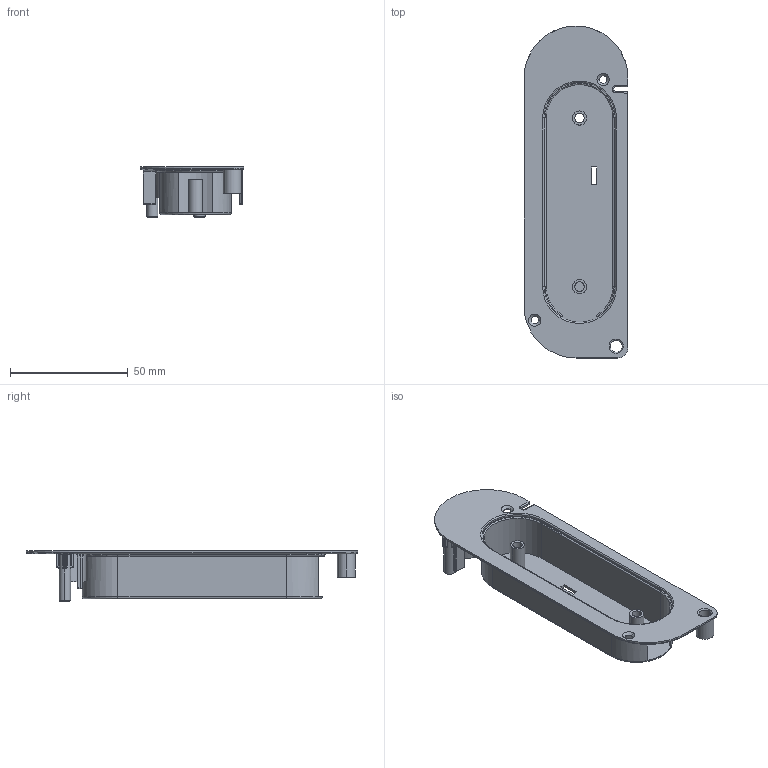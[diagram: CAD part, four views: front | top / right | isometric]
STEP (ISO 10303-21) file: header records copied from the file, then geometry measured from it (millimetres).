
FILE_DESCRIPTION((''),'2;1');
FILE_NAME('LOAD-BOX1','2021-03-24T',('Saeed'),(''),'PRO/ENGINEER BY PARAMETRIC TECHNOLOGY CORPORATION, 2012130','PRO/ENGINEER BY PARAMETRIC TECHNOLOGY CORPORATION, 2012130','');
FILE_SCHEMA(('CONFIG_CONTROL_DESIGN'));
Length unit declared in the file: millimetre
Products named in the file (1): LOAD-BOX1
Bounding box: 44.1 x 140.8 x 21.4 mm (x, y, z)
Volume: 12814.6 mm3; surface area: 23748.7 mm2
Topology: 1 solids, 1 shells, 367 faces, 873 edges, 514 vertices
Faces by surface type: cylinder 158, torus 80, plane 76, bspline 41, cone 12
Entity records: 13354 total; most frequent: CARTESIAN_POINT 4899, DIRECTION 1849, ORIENTED_EDGE 1746, EDGE_CURVE 873, AXIS2_PLACEMENT_3D 758, VERTEX_POINT 514, CIRCLE 432, EDGE_LOOP 385
